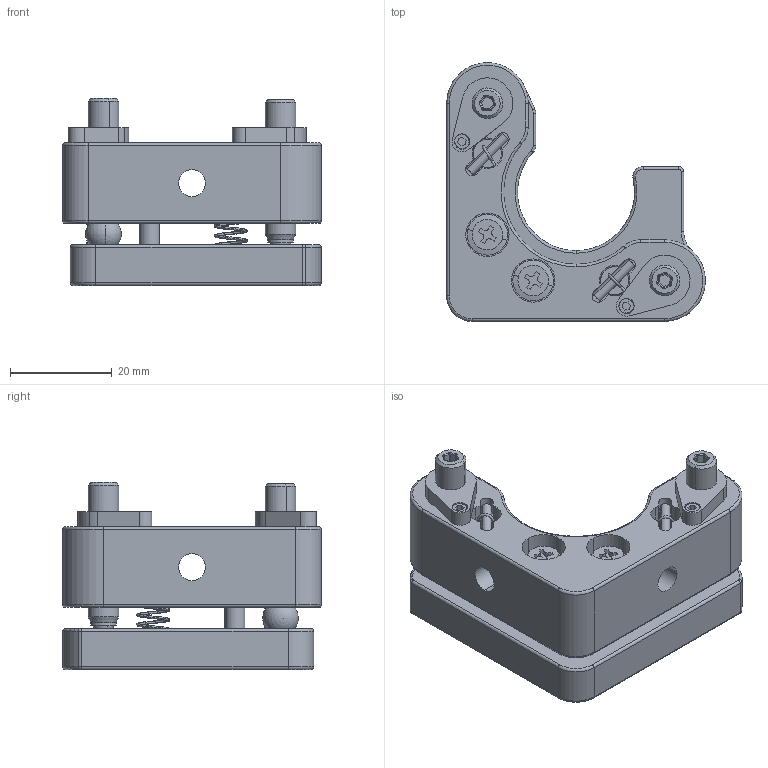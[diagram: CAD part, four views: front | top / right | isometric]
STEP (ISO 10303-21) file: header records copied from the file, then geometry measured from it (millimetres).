
FILE_DESCRIPTION (( 'STEP AP203' ), '1' );
FILE_NAME ('M-TNC-1R-FEC.STEP', '2020-08-04T06:55:58', ( '匠星' ), ( '' ), 'SwSTEP 2.0', 'SolidWorks 2019', '' );
FILE_SCHEMA (( 'CONFIG_CONTROL_DESIGN' ));
Length unit declared in the file: millimetre
Products named in the file (1): M-TNC-1R-FEC
Bounding box: 50.8 x 50.8 x 36.74 mm (x, y, z)
Surface area: 15235.8 mm2 (no closed solid volume)
Topology: 0 solids, 21 shells, 673 faces, 1587 edges, 969 vertices
Faces by surface type: cylinder 314, plane 191, torus 83, cone 56, sphere 23, bspline 6
Entity records: 23948 total; most frequent: CARTESIAN_POINT 8337, DIRECTION 3507, ORIENTED_EDGE 3092, EDGE_CURVE 1549, AXIS2_PLACEMENT_3D 1410, VERTEX_POINT 962, EDGE_LOOP 747, CIRCLE 742
